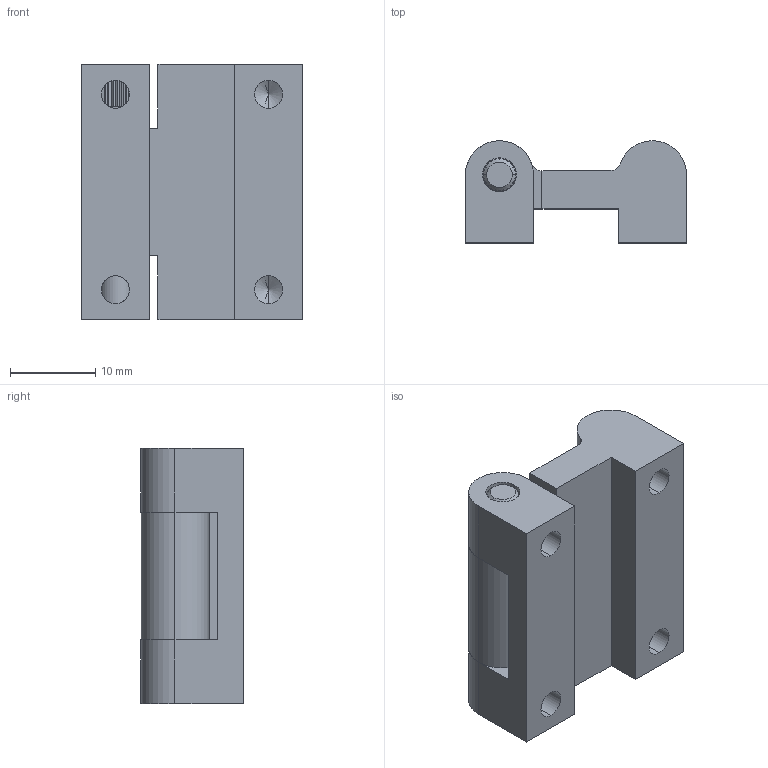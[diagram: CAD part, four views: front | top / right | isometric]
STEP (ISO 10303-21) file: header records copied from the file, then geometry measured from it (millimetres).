
FILE_DESCRIPTION (( 'STEP AP203' ), '1' );
FILE_NAME ('SK2-010.STEP', '2018-11-01T05:18:15', ( 'admin' ), ( 'Microsoft' ), 'SwSTEP 2.0', 'SolidWorks 2015', '' );
FILE_SCHEMA (( 'CONFIG_CONTROL_DESIGN' ));
Length unit declared in the file: millimetre
Products named in the file (4): SK2-010-F3; SK2-010; SK2-010-F1; SK2-010-F2
Assembly tree (3 placements, depth 2):
  SK2-010
    SK2-010-F1
    SK2-010-F2
    SK2-010-F3
Bounding box: 26 x 12 x 30 mm (x, y, z)
Volume: 6215 mm3; surface area: 4417.1 mm2
Topology: 3 solids, 3 shells, 148 faces, 370 edges, 226 vertices
Faces by surface type: plane 117, cylinder 23, cone 8
Entity records: 4902 total; most frequent: CARTESIAN_POINT 1006, ORIENTED_EDGE 732, DIRECTION 716, EDGE_CURVE 366, AXIS2_PLACEMENT_3D 248, VERTEX_POINT 226, VECTOR 220, LINE 220
